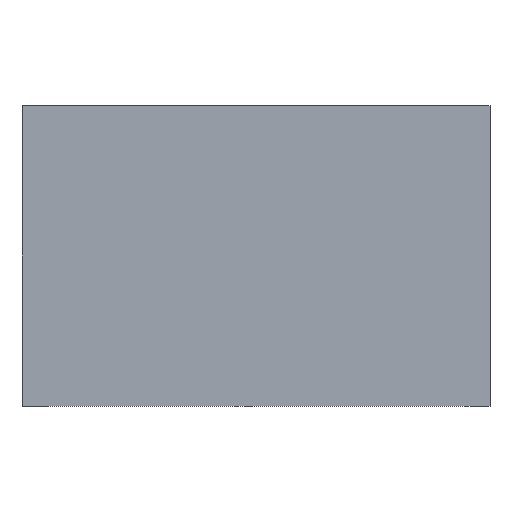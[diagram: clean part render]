
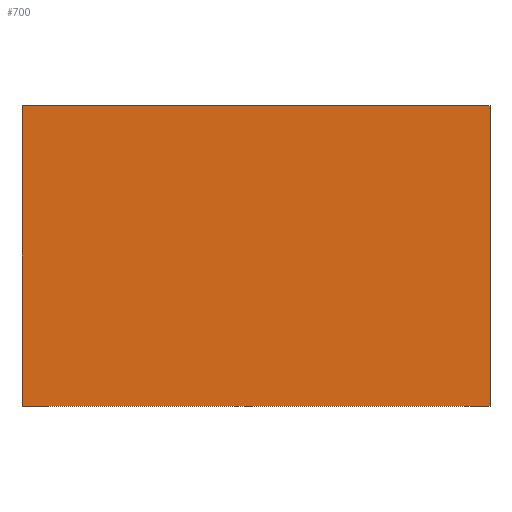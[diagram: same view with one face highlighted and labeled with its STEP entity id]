
A CAD part, front view. The second image highlights one B-rep face of the part: STEP entity #700.
In plain terms, the highlighted planar face has unit normal (0, -1, 0).
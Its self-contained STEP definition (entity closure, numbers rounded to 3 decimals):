
#62 = CARTESIAN_POINT ( 'NONE',  ( 0., 0., -97. ) ) ;
#75 = PLANE ( 'NONE',  #412 ) ;
#89 = CARTESIAN_POINT ( 'NONE',  ( 151., 0., -97. ) ) ;
#113 = ORIENTED_EDGE ( 'NONE', *, *, #309, .F. ) ;
#123 = EDGE_CURVE ( 'NONE', #616, #131, #294, .T. ) ;
#131 = VERTEX_POINT ( 'NONE', #598 ) ;
#144 = LINE ( 'NONE', #590, #585 ) ;
#146 = VECTOR ( 'NONE', #301, 1000. ) ;
#152 = EDGE_CURVE ( 'NONE', #615, #616, #572, .T. ) ;
#178 = VERTEX_POINT ( 'NONE', #89 ) ;
#194 = DIRECTION ( 'NONE',  ( 0., 0., -1. ) ) ;
#231 = DIRECTION ( 'NONE',  ( 0., 0., 1. ) ) ;
#258 = DIRECTION ( 'NONE',  ( -1., 0., 0. ) ) ;
#269 = DIRECTION ( 'NONE',  ( 0., -1., 0. ) ) ;
#294 = LINE ( 'NONE', #696, #146 ) ;
#301 = DIRECTION ( 'NONE',  ( 1., 0., 0. ) ) ;
#303 = ORIENTED_EDGE ( 'NONE', *, *, #340, .F. ) ;
#309 = EDGE_CURVE ( 'NONE', #178, #615, #144, .T. ) ;
#340 = EDGE_CURVE ( 'NONE', #131, #178, #401, .T. ) ;
#352 = FACE_OUTER_BOUND ( 'NONE', #562, .T. ) ;
#400 = CARTESIAN_POINT ( 'NONE',  ( 0., 0., 0. ) ) ;
#401 = LINE ( 'NONE', #580, #551 ) ;
#412 = AXIS2_PLACEMENT_3D ( 'NONE', #600, #269, #659 ) ;
#434 = ORIENTED_EDGE ( 'NONE', *, *, #152, .F. ) ;
#443 = VECTOR ( 'NONE', #231, 1000. ) ;
#445 = ORIENTED_EDGE ( 'NONE', *, *, #123, .F. ) ;
#496 = CARTESIAN_POINT ( 'NONE',  ( 0., 0., 0. ) ) ;
#551 = VECTOR ( 'NONE', #194, 1000. ) ;
#562 = EDGE_LOOP ( 'NONE', ( #434, #113, #303, #445 ) ) ;
#572 = LINE ( 'NONE', #400, #443 ) ;
#580 = CARTESIAN_POINT ( 'NONE',  ( 151., 0., 0. ) ) ;
#585 = VECTOR ( 'NONE', #258, 1000. ) ;
#590 = CARTESIAN_POINT ( 'NONE',  ( 0., 0., -97. ) ) ;
#598 = CARTESIAN_POINT ( 'NONE',  ( 151., 0., 0. ) ) ;
#600 = CARTESIAN_POINT ( 'NONE',  ( 0., 0., 0. ) ) ;
#615 = VERTEX_POINT ( 'NONE', #62 ) ;
#616 = VERTEX_POINT ( 'NONE', #496 ) ;
#659 = DIRECTION ( 'NONE',  ( 0., 0., -1. ) ) ;
#696 = CARTESIAN_POINT ( 'NONE',  ( 0., 0., 0. ) ) ;
#700 = ADVANCED_FACE ( 'NONE', ( #352 ), #75, .T. ) ;
